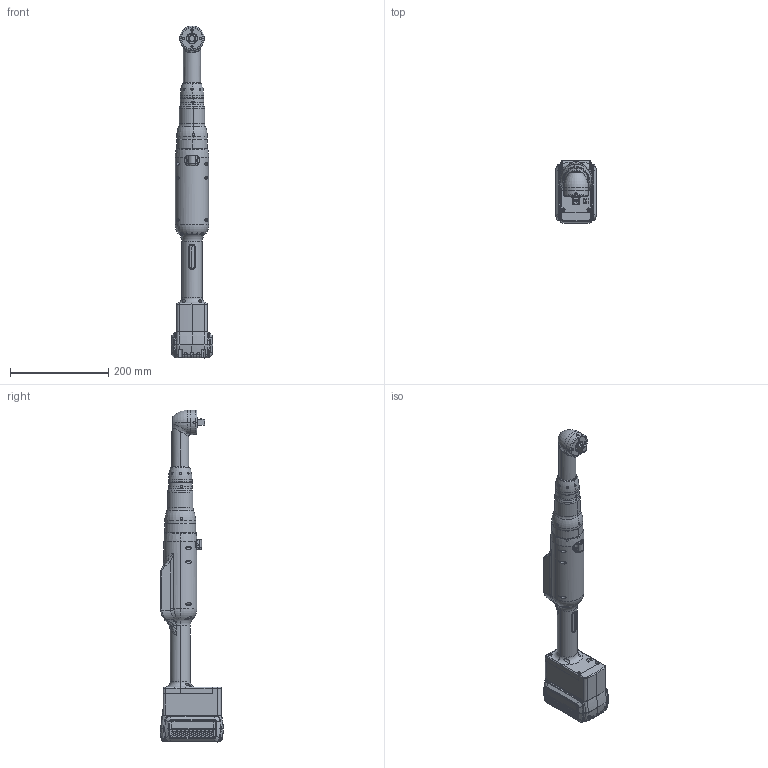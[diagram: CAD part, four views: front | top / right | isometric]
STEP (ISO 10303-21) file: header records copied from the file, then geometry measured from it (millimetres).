
FILE_DESCRIPTION (( 'STEP AP214' ), '1' );
FILE_NAME ('总装图120无线电枪.STEP', '2025-12-03T08:40:23', ( '' ), ( '' ), 'SwSTEP 2.0', 'SolidWorks 2021', '' );
FILE_SCHEMA (( 'AUTOMOTIVE_DESIGN' ));
Length unit declared in the file: millimetre
Products named in the file (1): 軞蚾芞120拸盄萇Л
Bounding box: 84.7 x 128.75 x 677.27 mm (x, y, z)
Surface area: 178984.6 mm2 (no closed solid volume)
Topology: 0 solids, 61 shells, 1191 faces, 4613 edges, 3395 vertices
Faces by surface type: plane 472, bspline 315, cylinder 294, torus 72, cone 28, sphere 10
Entity records: 109829 total; most frequent: CARTESIAN_POINT 62478, ORIENTED_EDGE 6892, DIRECTION 5765, EDGE_CURVE 4598, VERTEX_POINT 3393, LINE 2459, VECTOR 2459, AXIS2_PLACEMENT_3D 1653
